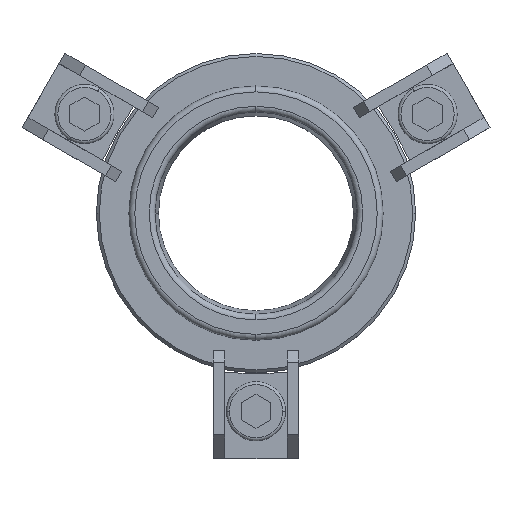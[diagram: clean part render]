
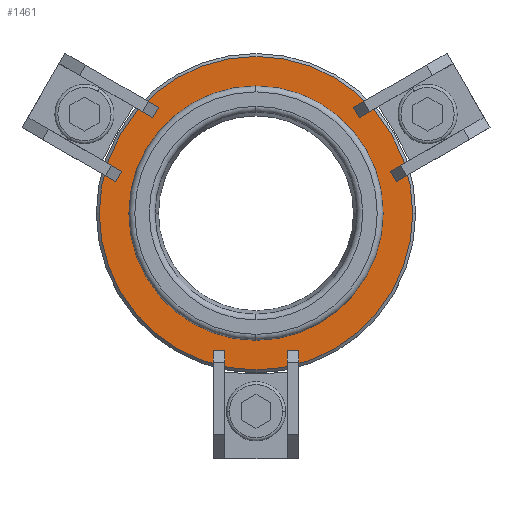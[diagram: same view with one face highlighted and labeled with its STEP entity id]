
A CAD part, top view. The second image highlights one B-rep face of the part: STEP entity #1461.
In plain terms, the highlighted planar face has unit normal (0, 0, 1).
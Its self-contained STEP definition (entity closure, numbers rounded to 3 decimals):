
#322=CARTESIAN_POINT('',(21.5,0.,5.0));
#323=VERTEX_POINT('',#322);
#338=CARTESIAN_POINT('',(-21.5,0.,5.0));
#339=VERTEX_POINT('',#338);
#346=CARTESIAN_POINT('',(0.0,0.,5.0));
#347=DIRECTION('',(0.0,0.0,1.0));
#348=DIRECTION('',(1.0,0.0,0.0));
#349=AXIS2_PLACEMENT_3D('',#346,#347,#348);
#350=CIRCLE('',#349,21.5);
#351=EDGE_CURVE('',#339,#323,#350,.T.);
#361=CARTESIAN_POINT('',(26.5,0.,5.0));
#362=VERTEX_POINT('',#361);
#371=CARTESIAN_POINT('',(-26.5,0.,5.0));
#372=VERTEX_POINT('',#371);
#373=CARTESIAN_POINT('',(0.0,0.,5.0));
#374=DIRECTION('',(0.0,0.0,1.0));
#375=DIRECTION('',(1.0,0.0,0.0));
#376=AXIS2_PLACEMENT_3D('',#373,#374,#375);
#377=CIRCLE('',#376,26.5);
#378=EDGE_CURVE('',#372,#362,#377,.T.);
#1432=CARTESIAN_POINT('',(0.0,0.,5.0));
#1433=DIRECTION('',(0.0,0.0,1.0));
#1434=DIRECTION('',(1.0,0.0,0.0));
#1435=AXIS2_PLACEMENT_3D('',#1432,#1433,#1434);
#1436=CIRCLE('',#1435,26.5);
#1437=EDGE_CURVE('',#362,#372,#1436,.T.);
#1442=CARTESIAN_POINT('',(24.0,0.,5.0));
#1443=DIRECTION('',(0.0,0.0,1.0));
#1444=DIRECTION('',(0.0,-1.0,0.0));
#1445=AXIS2_PLACEMENT_3D('',#1442,#1443,#1444);
#1446=PLANE('',#1445);
#1447=ORIENTED_EDGE('',*,*,#1437,.T.);
#1448=ORIENTED_EDGE('',*,*,#378,.T.);
#1449=EDGE_LOOP('',(#1447,#1448));
#1450=FACE_OUTER_BOUND('',#1449,.T.);
#1451=CARTESIAN_POINT('',(0.0,0.,5.0));
#1452=DIRECTION('',(0.0,0.0,1.0));
#1453=DIRECTION('',(1.0,0.0,0.0));
#1454=AXIS2_PLACEMENT_3D('',#1451,#1452,#1453);
#1455=CIRCLE('',#1454,21.5);
#1456=EDGE_CURVE('',#323,#339,#1455,.T.);
#1457=ORIENTED_EDGE('',*,*,#1456,.F.);
#1458=ORIENTED_EDGE('',*,*,#351,.F.);
#1459=EDGE_LOOP('',(#1457,#1458));
#1460=FACE_BOUND('',#1459,.T.);
#1461=ADVANCED_FACE('',(#1450,#1460),#1446,.T.);
